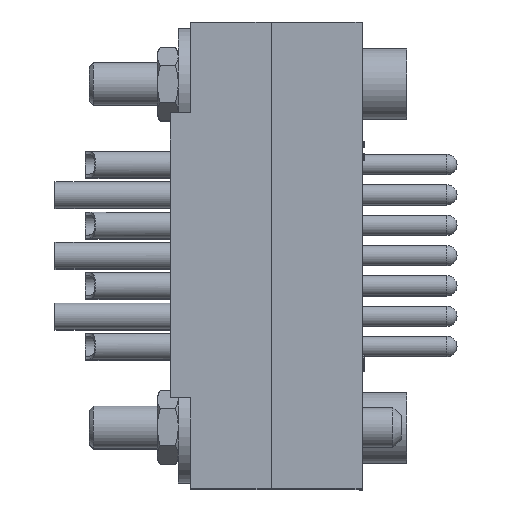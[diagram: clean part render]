
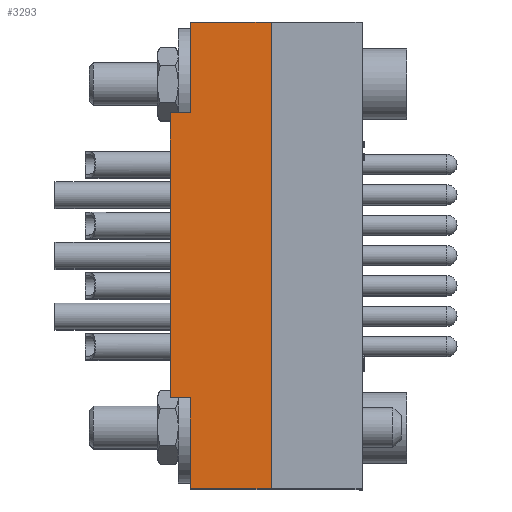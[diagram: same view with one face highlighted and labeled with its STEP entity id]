
A CAD part, top view. The second image highlights one B-rep face of the part: STEP entity #3293.
In plain terms, the highlighted planar face has unit normal (0, 0, 1) as drawn and (-1, 0, 0) by its records, which use the part's own axes.
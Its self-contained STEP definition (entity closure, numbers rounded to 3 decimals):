
#3293=ADVANCED_FACE('',(#6741),#6742,.F.);
#6741=FACE_OUTER_BOUND('',#10493,.T.);
#6742=PLANE('',#10494);
#10493=EDGE_LOOP('',(#17312,#17313,#17314,#17315,#17316,#17317,#17318,#17319));
#10494=AXIS2_PLACEMENT_3D('',#17320,#17321,#17322);
#17312=ORIENTED_EDGE('',*,*,#23659,.F.);
#17313=ORIENTED_EDGE('',*,*,#23660,.T.);
#17314=ORIENTED_EDGE('',*,*,#23661,.T.);
#17315=ORIENTED_EDGE('',*,*,#23662,.F.);
#17316=ORIENTED_EDGE('',*,*,#23663,.F.);
#17317=ORIENTED_EDGE('',*,*,#23664,.F.);
#17318=ORIENTED_EDGE('',*,*,#23643,.F.);
#17319=ORIENTED_EDGE('',*,*,#23665,.T.);
#17320=CARTESIAN_POINT('',(5.341,-7.6,4.809));
#17321=DIRECTION('',(1.0,0.0,0.0));
#17322=DIRECTION('',(0.0,0.0,-1.0));
#23643=EDGE_CURVE('',#28363,#28364,#28365,.T.);
#23659=EDGE_CURVE('',#28389,#28390,#28391,.T.);
#23660=EDGE_CURVE('',#28389,#28392,#28393,.T.);
#23661=EDGE_CURVE('',#28392,#28394,#28395,.T.);
#23662=EDGE_CURVE('',#28396,#28394,#28397,.T.);
#23663=EDGE_CURVE('',#28398,#28396,#28399,.T.);
#23664=EDGE_CURVE('',#28364,#28398,#28400,.T.);
#23665=EDGE_CURVE('',#28363,#28390,#28401,.T.);
#28363=VERTEX_POINT('',#35933);
#28364=VERTEX_POINT('',#35934);
#28365=LINE('',#35935,#35936);
#28389=VERTEX_POINT('',#35970);
#28390=VERTEX_POINT('',#35971);
#28391=LINE('',#35972,#35973);
#28392=VERTEX_POINT('',#35974);
#28393=LINE('',#35975,#35976);
#28394=VERTEX_POINT('',#35977);
#28395=LINE('',#35978,#35979);
#28396=VERTEX_POINT('',#35980);
#28397=LINE('',#35981,#35982);
#28398=VERTEX_POINT('',#35983);
#28399=LINE('',#35984,#35985);
#28400=LINE('',#35986,#35987);
#28401=LINE('',#35988,#35989);
#35933=CARTESIAN_POINT('',(5.341,-7.6,4.809));
#35934=CARTESIAN_POINT('',(5.341,-30.7,4.809));
#35935=CARTESIAN_POINT('',(5.341,-7.6,4.809));
#35936=VECTOR('',#41612,1.0);
#35970=CARTESIAN_POINT('',(5.341,-12.1,0.809));
#35971=CARTESIAN_POINT('',(5.341,-7.6,0.809));
#35972=CARTESIAN_POINT('',(5.341,-12.1,0.809));
#35973=VECTOR('',#41623,1.0);
#35974=CARTESIAN_POINT('',(5.341,-12.1,-0.191));
#35975=CARTESIAN_POINT('',(5.341,-12.1,0.809));
#35976=VECTOR('',#41624,1.0);
#35977=CARTESIAN_POINT('',(5.341,-26.2,-0.191));
#35978=CARTESIAN_POINT('',(5.341,-7.6,-0.191));
#35979=VECTOR('',#41625,1.0);
#35980=CARTESIAN_POINT('',(5.341,-26.2,0.809));
#35981=CARTESIAN_POINT('',(5.341,-26.2,0.809));
#35982=VECTOR('',#41626,1.0);
#35983=CARTESIAN_POINT('',(5.341,-30.7,0.809));
#35984=CARTESIAN_POINT('',(5.341,-30.7,0.809));
#35985=VECTOR('',#41627,1.0);
#35986=CARTESIAN_POINT('',(5.341,-30.7,4.809));
#35987=VECTOR('',#41628,1.0);
#35988=CARTESIAN_POINT('',(5.341,-7.6,4.809));
#35989=VECTOR('',#41629,1.0);
#41612=DIRECTION('',(0.0,-1.0,0.0));
#41623=DIRECTION('',(0.0,1.0,0.0));
#41624=DIRECTION('',(0.0,0.0,-1.0));
#41625=DIRECTION('',(0.0,-1.0,0.0));
#41626=DIRECTION('',(0.0,0.0,-1.0));
#41627=DIRECTION('',(0.0,1.0,0.0));
#41628=DIRECTION('',(0.0,0.0,-1.0));
#41629=DIRECTION('',(0.0,0.0,-1.0));
